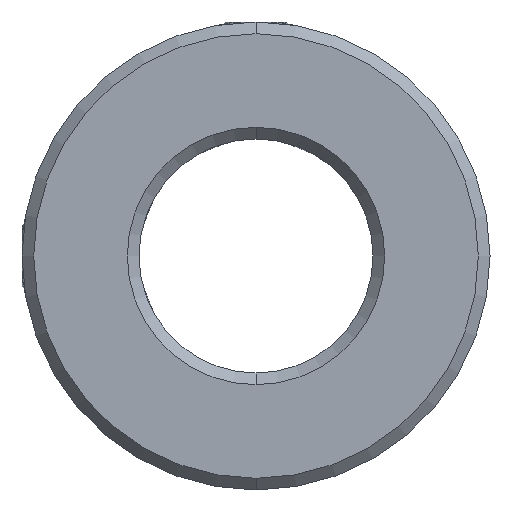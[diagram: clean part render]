
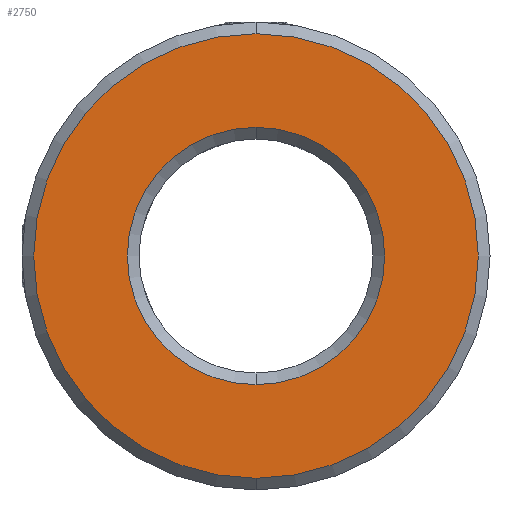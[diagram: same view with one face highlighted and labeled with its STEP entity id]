
A CAD part, front view. The second image highlights one B-rep face of the part: STEP entity #2750.
In plain terms, the highlighted planar face has unit normal (0, -1, 0).
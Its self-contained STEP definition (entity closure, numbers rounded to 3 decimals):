
#95 = CARTESIAN_POINT ( 'NONE',  ( -10.188, -0.277, 0.046 ) ) ;
#134 = CIRCLE ( 'NONE', #3635, 15.2 ) ;
#210 = VERTEX_POINT ( 'NONE', #2194 ) ;
#425 = ORIENTED_EDGE ( 'NONE', *, *, #3486, .T. ) ;
#561 = AXIS2_PLACEMENT_3D ( 'NONE', #95, #1186, #2928 ) ;
#669 = CARTESIAN_POINT ( 'NONE',  ( -10.188, -0.277, -15.154 ) ) ;
#930 = DIRECTION ( 'NONE',  ( 0., 0., 1. ) ) ;
#967 = CARTESIAN_POINT ( 'NONE',  ( -10.188, -0.277, 0.046 ) ) ;
#1028 = CIRCLE ( 'NONE', #2556, 15.2 ) ;
#1186 = DIRECTION ( 'NONE',  ( 0., 1., 0. ) ) ;
#1216 = CARTESIAN_POINT ( 'NONE',  ( -10.188, -0.277, 8.846 ) ) ;
#1232 = DIRECTION ( 'NONE',  ( 0., -1., 0. ) ) ;
#1263 = DIRECTION ( 'NONE',  ( 0., 1., 0. ) ) ;
#1289 = EDGE_CURVE ( 'NONE', #1942, #2791, #1028, .T. ) ;
#1370 = FACE_BOUND ( 'NONE', #2027, .T. ) ;
#1384 = DIRECTION ( 'NONE',  ( 0., 1., 0. ) ) ;
#1449 = ORIENTED_EDGE ( 'NONE', *, *, #1289, .T. ) ;
#1512 = AXIS2_PLACEMENT_3D ( 'NONE', #2856, #1263, #2401 ) ;
#1627 = ORIENTED_EDGE ( 'NONE', *, *, #2133, .T. ) ;
#1690 = CIRCLE ( 'NONE', #561, 8.8 ) ;
#1743 = VERTEX_POINT ( 'NONE', #1216 ) ;
#1942 = VERTEX_POINT ( 'NONE', #3069 ) ;
#2027 = EDGE_LOOP ( 'NONE', ( #2822, #1627 ) ) ;
#2133 = EDGE_CURVE ( 'NONE', #1743, #210, #2409, .T. ) ;
#2194 = CARTESIAN_POINT ( 'NONE',  ( -10.188, -0.277, -8.754 ) ) ;
#2230 = CARTESIAN_POINT ( 'NONE',  ( -10.188, -0.277, 0.046 ) ) ;
#2349 = AXIS2_PLACEMENT_3D ( 'NONE', #2230, #1384, #2513 ) ;
#2401 = DIRECTION ( 'NONE',  ( 0., 0., 1. ) ) ;
#2403 = EDGE_CURVE ( 'NONE', #210, #1743, #1690, .T. ) ;
#2409 = CIRCLE ( 'NONE', #1512, 8.8 ) ;
#2495 = FACE_OUTER_BOUND ( 'NONE', #3534, .T. ) ;
#2513 = DIRECTION ( 'NONE',  ( 0., 0., 1. ) ) ;
#2556 = AXIS2_PLACEMENT_3D ( 'NONE', #2921, #2709, #2960 ) ;
#2709 = DIRECTION ( 'NONE',  ( 0., -1., 0. ) ) ;
#2750 = ADVANCED_FACE ( 'NONE', ( #2495, #1370 ), #3637, .F. ) ;
#2791 = VERTEX_POINT ( 'NONE', #669 ) ;
#2822 = ORIENTED_EDGE ( 'NONE', *, *, #2403, .T. ) ;
#2856 = CARTESIAN_POINT ( 'NONE',  ( -10.188, -0.277, 0.046 ) ) ;
#2921 = CARTESIAN_POINT ( 'NONE',  ( -10.188, -0.277, 0.046 ) ) ;
#2928 = DIRECTION ( 'NONE',  ( 0., 0., 1. ) ) ;
#2960 = DIRECTION ( 'NONE',  ( 0., 0., 1. ) ) ;
#3069 = CARTESIAN_POINT ( 'NONE',  ( -10.188, -0.277, 15.246 ) ) ;
#3486 = EDGE_CURVE ( 'NONE', #2791, #1942, #134, .T. ) ;
#3534 = EDGE_LOOP ( 'NONE', ( #1449, #425 ) ) ;
#3635 = AXIS2_PLACEMENT_3D ( 'NONE', #967, #1232, #930 ) ;
#3637 = PLANE ( 'NONE',  #2349 ) ;
